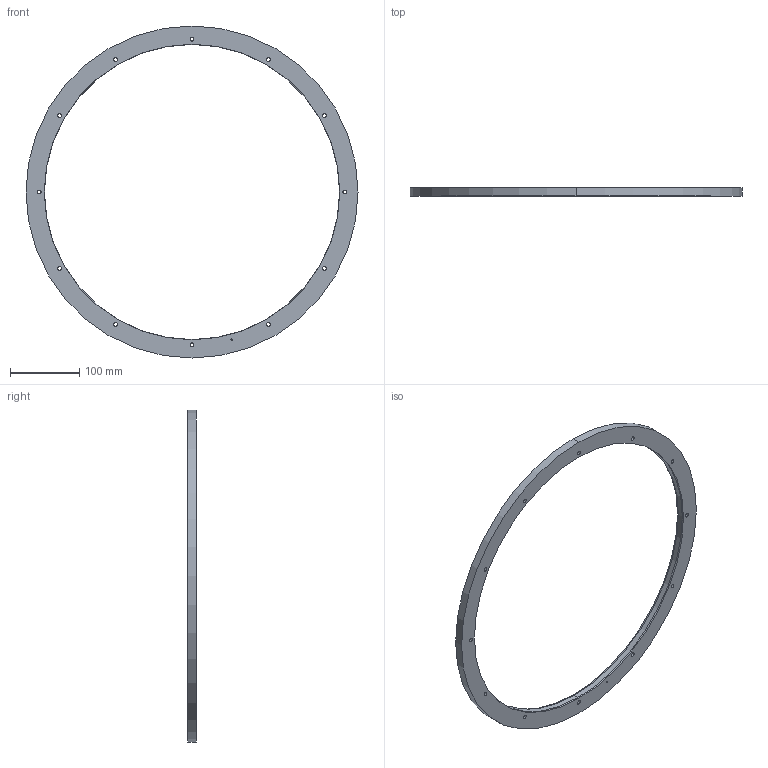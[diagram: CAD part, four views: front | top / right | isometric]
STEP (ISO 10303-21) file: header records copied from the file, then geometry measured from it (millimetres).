
FILE_DESCRIPTION (( 'STEP AP214' ), '1' );
FILE_NAME ('SAR478.STEP', '2024-02-01T09:19:05', ( '' ), ( '' ), 'SwSTEP 2.0', 'SolidWorks 2022', '' );
FILE_SCHEMA (( 'AUTOMOTIVE_DESIGN' ));
Length unit declared in the file: millimetre
Products named in the file (1): SAR478
Bounding box: 478.18 x 12 x 478.18 mm (x, y, z)
Volume: 444738.7 mm3; surface area: 111537.9 mm2
Topology: 1 solids, 1 shells, 1515 faces, 4201 edges, 2796 vertices
Faces by surface type: plane 1417, cylinder 64, bspline 26, cone 8
Entity records: 65490 total; most frequent: CARTESIAN_POINT 9975, ORIENTED_EDGE 8394, DIRECTION 7257, EDGE_CURVE 4197, VECTOR 4013, LINE 4013, VERTEX_POINT 2796, EDGE_LOOP 1653
